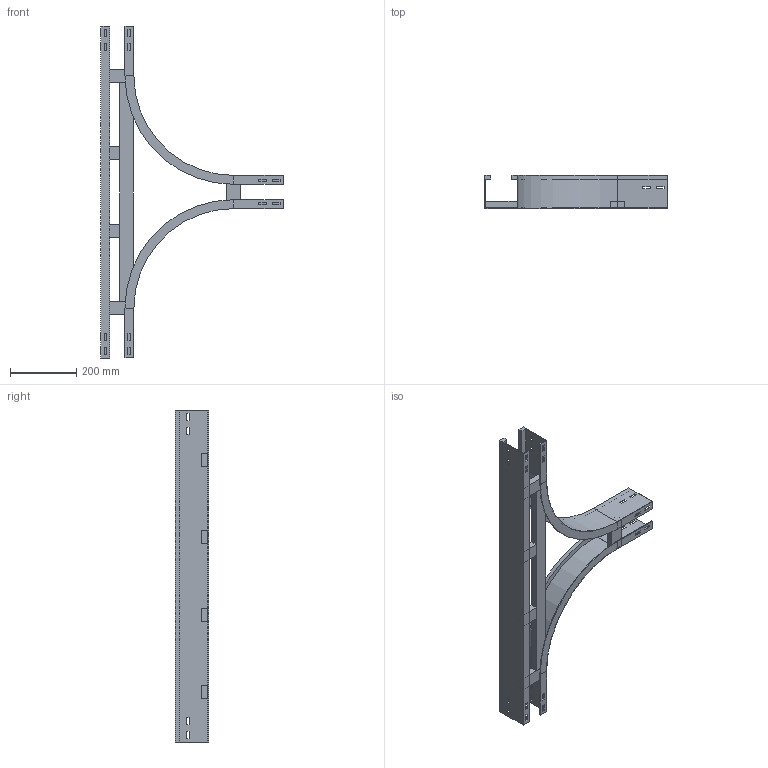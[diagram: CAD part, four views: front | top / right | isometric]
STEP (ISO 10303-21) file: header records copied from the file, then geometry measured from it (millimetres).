
FILE_DESCRIPTION (( 'STEP AP214' ), '1' );
FILE_NAME ('A2_15B3D100.step', '2025-02-21T15:49:25', ( '' ), ( '' ), 'SwSTEP 2.0', 'SolidWorks 2023', '' );
FILE_SCHEMA (( 'AUTOMOTIVE_DESIGN' ));
Length unit declared in the file: millimetre
Products named in the file (6): TRAVERSINO_INTERMEDIO_R300+100; A2_LONGH.RETT_H100_R300+100; TRAVERSINO_100; A2_TRAVERSINO_LONG._R300+100; A2_LONGH.INTERNO 90°_H100_R300; A2_15B3D100
Assembly tree (9 placements, depth 2):
  A2_15B3D100
    A2_LONGH.INTERNO 90°_H100_R300  x2
    A2_LONGH.RETT_H100_R300+100
    TRAVERSINO_100  x3
    A2_TRAVERSINO_LONG._R300+100
    TRAVERSINO_INTERMEDIO_R300+100  x2
Bounding box: 550 x 100 x 1000 mm (x, y, z)
Volume: 1982706 mm3; surface area: 867675.3 mm2
Topology: 9 solids, 9 shells, 194 faces, 496 edges, 320 vertices
Faces by surface type: plane 186, cylinder 8
Entity records: 3815 total; most frequent: CARTESIAN_POINT 638, ORIENTED_EDGE 616, DIRECTION 576, EDGE_CURVE 308, LINE 300, VECTOR 300, VERTEX_POINT 200, EDGE_LOOP 150
